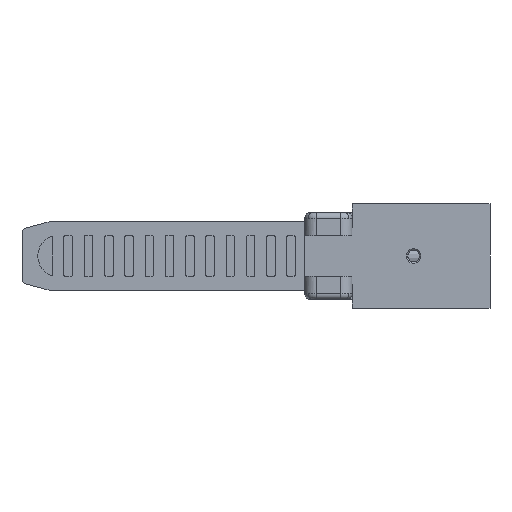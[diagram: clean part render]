
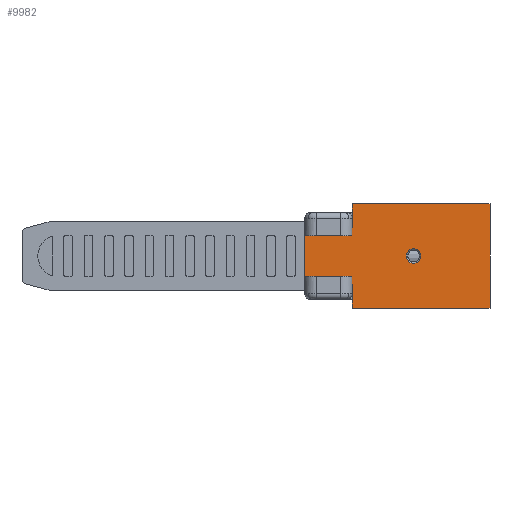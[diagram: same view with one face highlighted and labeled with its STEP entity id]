
A CAD part, front view. The second image highlights one B-rep face of the part: STEP entity #9982.
In plain terms, the highlighted planar face has unit normal (0, -1, 0).
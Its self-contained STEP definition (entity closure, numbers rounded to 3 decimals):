
#377 = VERTEX_POINT ( 'NONE', #4766 ) ;
#412 = VECTOR ( 'NONE', #9542, 1000. ) ;
#452 = ORIENTED_EDGE ( 'NONE', *, *, #13117, .F. ) ;
#940 = EDGE_CURVE ( 'NONE', #13401, #3097, #1529, .T. ) ;
#1053 = VECTOR ( 'NONE', #1517, 1000. ) ;
#1142 = ORIENTED_EDGE ( 'NONE', *, *, #7169, .F. ) ;
#1209 = DIRECTION ( 'NONE',  ( -1., 0., 0. ) ) ;
#1365 = CARTESIAN_POINT ( 'NONE',  ( -9.5, -5., 9. ) ) ;
#1377 = ORIENTED_EDGE ( 'NONE', *, *, #13367, .T. ) ;
#1517 = DIRECTION ( 'NONE',  ( 0., 0., -1. ) ) ;
#1529 = LINE ( 'NONE', #2443, #1053 ) ;
#1829 = VECTOR ( 'NONE', #1967, 1000. ) ;
#1936 = CARTESIAN_POINT ( 'NONE',  ( 22.5, -5., 9. ) ) ;
#1967 = DIRECTION ( 'NONE',  ( 0., 0., -1. ) ) ;
#2443 = CARTESIAN_POINT ( 'NONE',  ( -1.3, -5., 9. ) ) ;
#2710 = ORIENTED_EDGE ( 'NONE', *, *, #16932, .F. ) ;
#2863 = CARTESIAN_POINT ( 'NONE',  ( -9.5, -5., -9. ) ) ;
#2914 = AXIS2_PLACEMENT_3D ( 'NONE', #16114, #7007, #17598 ) ;
#2984 = DIRECTION ( 'NONE',  ( 1., 0., 0. ) ) ;
#3012 = EDGE_CURVE ( 'NONE', #13523, #11090, #4295, .T. ) ;
#3071 = CIRCLE ( 'NONE', #3142, 1.25 ) ;
#3097 = VERTEX_POINT ( 'NONE', #11294 ) ;
#3142 = AXIS2_PLACEMENT_3D ( 'NONE', #9004, #19606, #10539 ) ;
#3324 = VERTEX_POINT ( 'NONE', #10157 ) ;
#3473 = EDGE_CURVE ( 'NONE', #3324, #13055, #3071, .T. ) ;
#3759 = EDGE_CURVE ( 'NONE', #3097, #11464, #16126, .T. ) ;
#3917 = FACE_BOUND ( 'NONE', #8980, .T. ) ;
#4295 = LINE ( 'NONE', #18740, #11873 ) ;
#4366 = LINE ( 'NONE', #4629, #8418 ) ;
#4629 = CARTESIAN_POINT ( 'NONE',  ( 22.5, -5., 9. ) ) ;
#4766 = CARTESIAN_POINT ( 'NONE',  ( -1.3, -5., 9. ) ) ;
#5032 = CARTESIAN_POINT ( 'NONE',  ( -1.3, -5., -4.95 ) ) ;
#5613 = CARTESIAN_POINT ( 'NONE',  ( -9.5, -5., 4.95 ) ) ;
#6558 = ORIENTED_EDGE ( 'NONE', *, *, #3012, .F. ) ;
#6800 = EDGE_LOOP ( 'NONE', ( #1142, #14410, #16276, #8834, #452, #1377, #6558, #9243 ) ) ;
#7007 = DIRECTION ( 'NONE',  ( 0., 1., 0. ) ) ;
#7169 = EDGE_CURVE ( 'NONE', #13401, #13154, #13861, .T. ) ;
#7332 = CARTESIAN_POINT ( 'NONE',  ( -9.5, -5., -4.95 ) ) ;
#7464 = CARTESIAN_POINT ( 'NONE',  ( 9.3, -5., 0. ) ) ;
#8418 = VECTOR ( 'NONE', #13694, 1000. ) ;
#8834 = ORIENTED_EDGE ( 'NONE', *, *, #19072, .F. ) ;
#8943 = VERTEX_POINT ( 'NONE', #1936 ) ;
#8980 = EDGE_LOOP ( 'NONE', ( #14767, #2710 ) ) ;
#8987 = DIRECTION ( 'NONE',  ( 0., 0., -1. ) ) ;
#9004 = CARTESIAN_POINT ( 'NONE',  ( 9.3, -5., 0. ) ) ;
#9032 = CIRCLE ( 'NONE', #12175, 1.25 ) ;
#9243 = ORIENTED_EDGE ( 'NONE', *, *, #15492, .T. ) ;
#9367 = VECTOR ( 'NONE', #1209, 1000. ) ;
#9401 = CARTESIAN_POINT ( 'NONE',  ( -9.5, -5., 9. ) ) ;
#9527 = CARTESIAN_POINT ( 'NONE',  ( -1.3, -5., 9. ) ) ;
#9542 = DIRECTION ( 'NONE',  ( 1., 0., 0. ) ) ;
#9982 = ADVANCED_FACE ( 'NONE', ( #3917, #11966 ), #9985, .F. ) ;
#9985 = PLANE ( 'NONE',  #2914 ) ;
#10157 = CARTESIAN_POINT ( 'NONE',  ( 9.3, -5., -1.25 ) ) ;
#10539 = DIRECTION ( 'NONE',  ( 0., 0., -1. ) ) ;
#10876 = CARTESIAN_POINT ( 'NONE',  ( 9.3, -5., 1.25 ) ) ;
#11090 = VERTEX_POINT ( 'NONE', #14387 ) ;
#11111 = DIRECTION ( 'NONE',  ( 1., 0., 0. ) ) ;
#11294 = CARTESIAN_POINT ( 'NONE',  ( -1.3, -5., -9. ) ) ;
#11464 = VERTEX_POINT ( 'NONE', #12751 ) ;
#11873 = VECTOR ( 'NONE', #11111, 1000. ) ;
#11966 = FACE_OUTER_BOUND ( 'NONE', #6800, .T. ) ;
#12043 = VECTOR ( 'NONE', #2984, 1000. ) ;
#12175 = AXIS2_PLACEMENT_3D ( 'NONE', #7464, #18077, #8987 ) ;
#12486 = LINE ( 'NONE', #9401, #412 ) ;
#12645 = CARTESIAN_POINT ( 'NONE',  ( -9.5, -5., -4.95 ) ) ;
#12751 = CARTESIAN_POINT ( 'NONE',  ( 22.5, -5., -9. ) ) ;
#13055 = VERTEX_POINT ( 'NONE', #10876 ) ;
#13117 = EDGE_CURVE ( 'NONE', #377, #8943, #12486, .T. ) ;
#13154 = VERTEX_POINT ( 'NONE', #12645 ) ;
#13367 = EDGE_CURVE ( 'NONE', #377, #11090, #13919, .T. ) ;
#13401 = VERTEX_POINT ( 'NONE', #5032 ) ;
#13523 = VERTEX_POINT ( 'NONE', #5613 ) ;
#13694 = DIRECTION ( 'NONE',  ( 0., 0., -1. ) ) ;
#13861 = LINE ( 'NONE', #7332, #9367 ) ;
#13919 = LINE ( 'NONE', #9527, #1829 ) ;
#14387 = CARTESIAN_POINT ( 'NONE',  ( -1.3, -5., 4.95 ) ) ;
#14410 = ORIENTED_EDGE ( 'NONE', *, *, #940, .T. ) ;
#14767 = ORIENTED_EDGE ( 'NONE', *, *, #3473, .F. ) ;
#15464 = VECTOR ( 'NONE', #16842, 1000. ) ;
#15492 = EDGE_CURVE ( 'NONE', #13523, #13154, #19457, .T. ) ;
#16114 = CARTESIAN_POINT ( 'NONE',  ( -9.5, -5., 9. ) ) ;
#16126 = LINE ( 'NONE', #2863, #12043 ) ;
#16276 = ORIENTED_EDGE ( 'NONE', *, *, #3759, .T. ) ;
#16842 = DIRECTION ( 'NONE',  ( 0., 0., -1. ) ) ;
#16932 = EDGE_CURVE ( 'NONE', #13055, #3324, #9032, .T. ) ;
#17598 = DIRECTION ( 'NONE',  ( 0., 0., 1. ) ) ;
#18077 = DIRECTION ( 'NONE',  ( 0., -1., 0. ) ) ;
#18740 = CARTESIAN_POINT ( 'NONE',  ( -9.5, -5., 4.95 ) ) ;
#19072 = EDGE_CURVE ( 'NONE', #8943, #11464, #4366, .T. ) ;
#19457 = LINE ( 'NONE', #1365, #15464 ) ;
#19606 = DIRECTION ( 'NONE',  ( 0., -1., 0. ) ) ;
